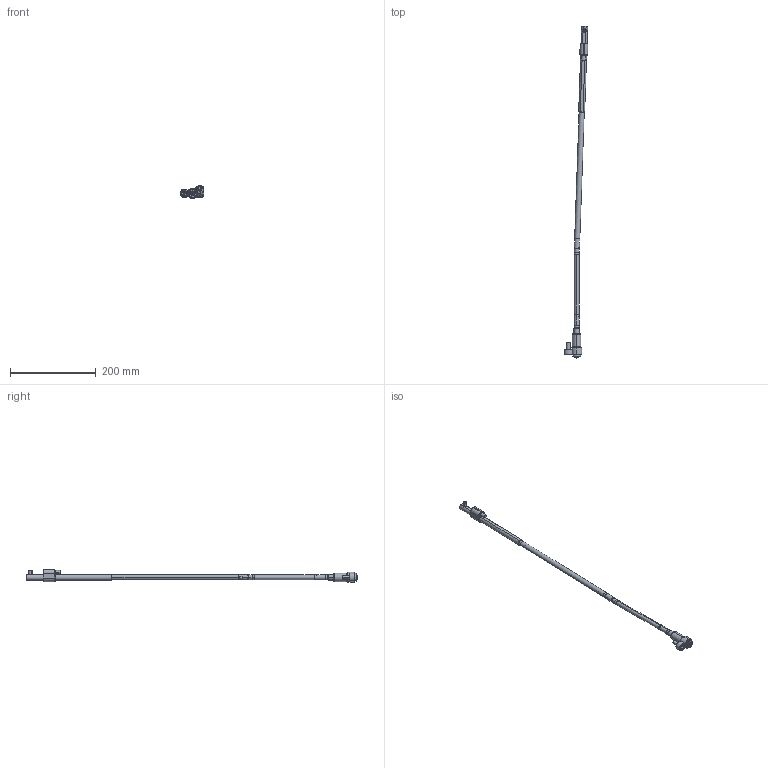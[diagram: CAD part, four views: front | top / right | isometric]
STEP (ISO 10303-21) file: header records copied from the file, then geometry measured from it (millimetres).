
FILE_DESCRIPTION (( 'STEP AP214' ), '1' );
FILE_NAME ('WL120125-INJ 2°.STEP', '2021-03-19T15:39:41', ( '' ), ( '' ), 'SwSTEP 2.0', 'SolidWorks 2019', '' );
FILE_SCHEMA (( 'AUTOMOTIVE_DESIGN' ));
Length unit declared in the file: millimetre
Products named in the file (17): Web-WL12-A8; Web-WL12-A1; WL120125-INJ 2°; 1DIN912820_DIN 912 M8 x 20 --- 20C; WL120100-B; 8WL12EJEP; 9DR2808-TOR; Web-WL12-A2; WL120100-B1; WL120100-E; Web-WL12-F00.SLDPRT; Web-WL12-F01; 1DIN912645_DIN 912 M6 x 45 --- 45C; Web-WL12-A3; 3IMAN5X3-150_con sellador; WL120100-D; Web-WL12-XX_OFF-WL120125-2
Assembly tree (16 placements, depth 3):
  WL120125-INJ 2°
    Web-WL12-A8
    Web-WL12-XX_OFF-WL120125-2
    Web-WL12-A3
    Web-WL12-A2
    Web-WL12-A1
    Web-WL12-F00.SLDPRT
      Web-WL12-F01
      1DIN912820_DIN 912 M8 x 20 --- 20C
      1DIN912645_DIN 912 M6 x 45 --- 45C
    WL120100-D
    8WL12EJEP
    WL120100-E
    9DR2808-TOR
    WL120100-B
      WL120100-B1
      3IMAN5X3-150_con sellador
Bounding box: 55.45 x 772.91 x 29.9 mm (x, y, z)
Volume: 116548.4 mm3; surface area: 51030 mm2
Topology: 15 solids, 15 shells, 432 faces, 906 edges, 525 vertices
Faces by surface type: plane 139, cylinder 123, cone 120, torus 50
Entity records: 13661 total; most frequent: DIRECTION 2240, CARTESIAN_POINT 2104, ORIENTED_EDGE 1788, AXIS2_PLACEMENT_3D 929, EDGE_CURVE 894, VERTEX_POINT 525, EDGE_LOOP 477, CIRCLE 476
